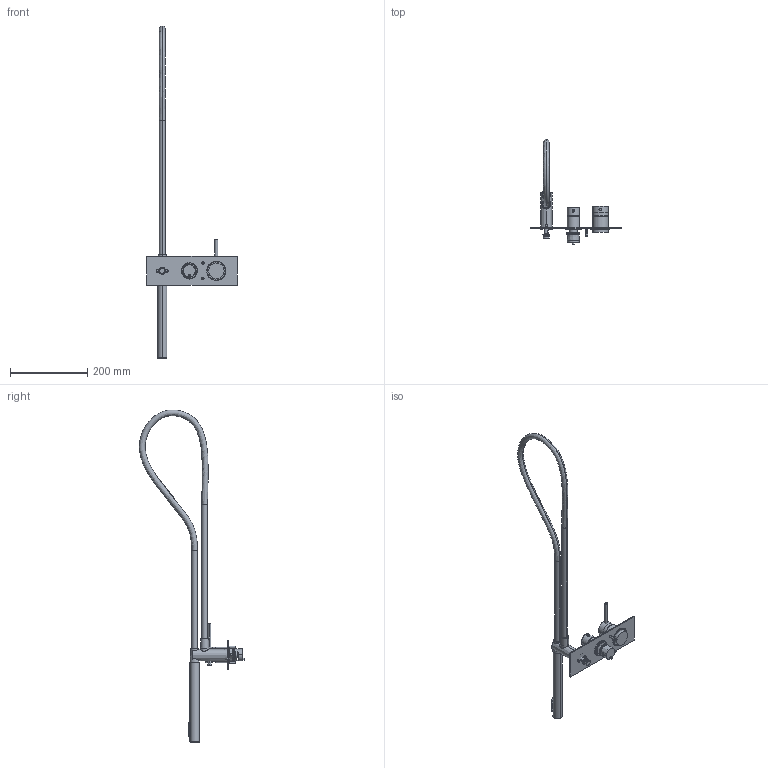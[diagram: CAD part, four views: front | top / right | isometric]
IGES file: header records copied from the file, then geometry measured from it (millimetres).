
Start section:  PTC IGES file: 69529v221_sw0001.igs
Global section: file name: 69529v221_sw0001.igs; native system: Creo Parametric by PTC Inc.; preprocessor: 2022014; author: volponeff; organization: Unknown; date: 20230605.150136; units: millimetre
Bounding box: 235 x 272.41 x 859.65 mm (x, y, z)
Surface area: 170288 mm2 (no closed solid volume)
Topology: 0 solids, 0 shells, 343 faces, 1472 edges, 1470 vertices
Faces by surface type: revolution 252, bspline 91
